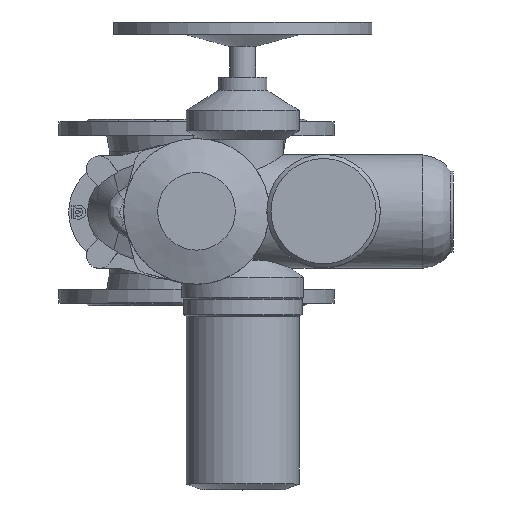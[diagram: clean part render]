
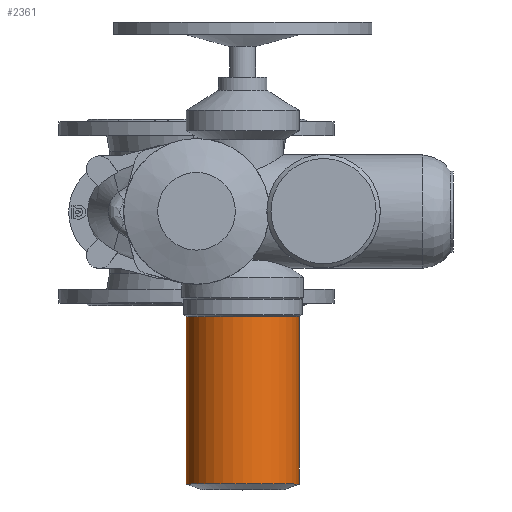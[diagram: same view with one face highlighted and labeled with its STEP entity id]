
A CAD part, top view. The second image highlights one B-rep face of the part: STEP entity #2361.
In plain terms, the highlighted cylindrical face has radius 70 mm (diameter 140 mm), a full revolution.
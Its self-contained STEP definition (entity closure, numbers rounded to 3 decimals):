
#2361=ADVANCED_FACE('',(#6078,#6080),#6082,.T.);
#6078=FACE_OUTER_BOUND('',#6079,.T.);
#6079=EDGE_LOOP('',(#8249));
#6080=FACE_OUTER_BOUND('',#6081,.T.);
#6081=EDGE_LOOP('',(#8250));
#6082=CYLINDRICAL_SURFACE('',#6083,70.);
#6083=AXIS2_PLACEMENT_3D('',#6084,#6085,#6086);
#6084=CARTESIAN_POINT('',(57.,-336.721,695.5));
#6085=DIRECTION('',(0.,1.,0.));
#6086=DIRECTION('',(0.,0.,1.));
#8249=ORIENTED_EDGE('',*,*,#9512,.F.);
#8250=ORIENTED_EDGE('',*,*,#9607,.T.);
#9512=EDGE_CURVE('',#10959,#10959,#10960,.T.);
#9607=EDGE_CURVE('',#11128,#11128,#11129,.T.);
#10959=VERTEX_POINT('',#17436);
#10960=CIRCLE('',#17437,70.);
#11128=VERTEX_POINT('',#17906);
#11129=CIRCLE('',#17907,70.);
#17436=CARTESIAN_POINT('',(57.,-129.807,765.5));
#17437=AXIS2_PLACEMENT_3D('',#17438,#17439,#17440);
#17438=CARTESIAN_POINT('',(57.,-129.807,695.5));
#17439=DIRECTION('',(0.,1.,0.));
#17440=DIRECTION('',(0.,0.,1.));
#17906=CARTESIAN_POINT('',(57.,-336.721,765.5));
#17907=AXIS2_PLACEMENT_3D('',#17908,#17909,#17910);
#17908=CARTESIAN_POINT('',(57.,-336.721,695.5));
#17909=DIRECTION('',(0.,1.,0.));
#17910=DIRECTION('',(0.,0.,1.));
